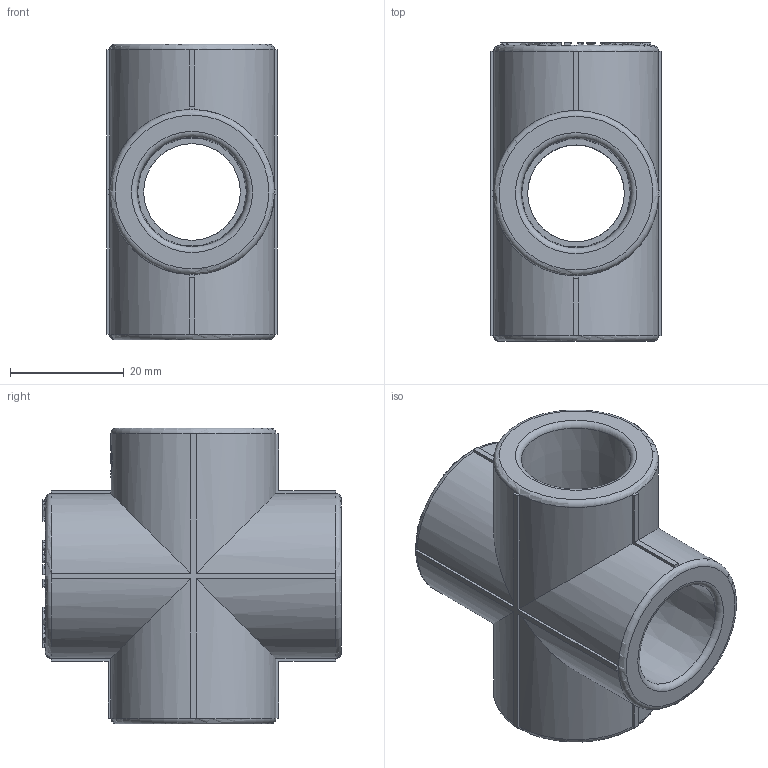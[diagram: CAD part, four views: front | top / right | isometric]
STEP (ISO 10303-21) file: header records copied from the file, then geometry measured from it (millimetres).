
FILE_DESCRIPTION(('STEP AP203'), '1');
FILE_NAME('ÂÐ.752261.004 - VTp.741.0.020', '', ('UNSPECIFIED'), ('UNSPECIFIED'), 'C3D Converter', 'C3D Toolkit', '');
FILE_SCHEMA(('CONFIG_CONTROL_DESIGN'));
Length unit declared in the file: millimetre
Products named in the file (1): ВР.752261.004
Bounding box: 30 x 52.5 x 52 mm (x, y, z)
Volume: 28489.1 mm3; surface area: 12751.3 mm2
Topology: 1 solids, 1 shells, 1075 faces, 2999 edges, 1983 vertices
Faces by surface type: extrusion 611, plane 407, cylinder 45, torus 8, cone 4
Full cylindrical faces by diameter (mm): 6 x1, 17 x4
Entity records: 39229 total; most frequent: CARTESIAN_POINT 14921, ORIENTED_EDGE 5964, DIRECTION 3052, EDGE_CURVE 2982, VECTOR 2012, VERTEX_POINT 1983, B_SPLINE_CURVE_WITH_KNOTS 1835, LINE 1401
